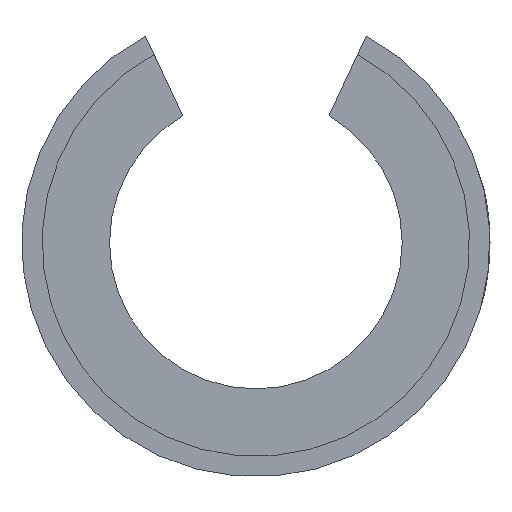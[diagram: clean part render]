
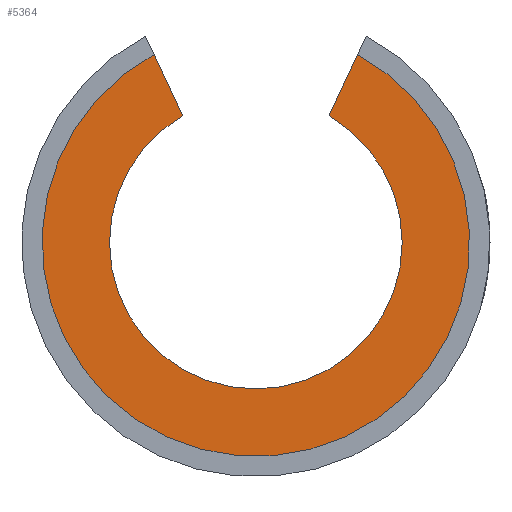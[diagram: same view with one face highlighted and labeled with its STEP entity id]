
A CAD part, left-side view. The second image highlights one B-rep face of the part: STEP entity #5364.
In plain terms, the highlighted planar face has unit normal (-1, 0, 0).
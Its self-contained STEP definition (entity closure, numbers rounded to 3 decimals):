
#125=PLANE('',#5783);
#355=CIRCLE('',#5758,25.);
#368=CIRCLE('',#5784,36.514);
#556=LINE('',#8547,#1011);
#557=LINE('',#8549,#1012);
#1011=VECTOR('',#6379,1000.);
#1012=VECTOR('',#6380,1000.);
#1646=ORIENTED_EDGE('',*,*,#3257,.T.);
#1647=ORIENTED_EDGE('',*,*,#3218,.T.);
#1648=ORIENTED_EDGE('',*,*,#3258,.T.);
#1649=ORIENTED_EDGE('',*,*,#3259,.F.);
#3218=EDGE_CURVE('',#4030,#4031,#355,.F.);
#3257=EDGE_CURVE('',#4056,#4030,#556,.T.);
#3258=EDGE_CURVE('',#4031,#4057,#557,.T.);
#3259=EDGE_CURVE('',#4056,#4057,#368,.T.);
#4030=VERTEX_POINT('',#8470);
#4031=VERTEX_POINT('',#8471);
#4056=VERTEX_POINT('',#8548);
#4057=VERTEX_POINT('',#8550);
#4587=EDGE_LOOP('',(#1646,#1647,#1648,#1649));
#4966=FACE_BOUND('',#4587,.T.);
#5364=ADVANCED_FACE('',(#4966),#125,.T.);
#5758=AXIS2_PLACEMENT_3D('',#8469,#6301,#6302);
#5783=AXIS2_PLACEMENT_3D('',#8546,#6377,#6378);
#5784=AXIS2_PLACEMENT_3D('',#8551,#6381,#6382);
#6301=DIRECTION('',(-1.,0.,0.));
#6302=DIRECTION('',(0.,0.,1.));
#6377=DIRECTION('',(-1.,0.,0.));
#6378=DIRECTION('',(0.,0.,-1.));
#6379=DIRECTION('',(0.,0.423,-0.906));
#6380=DIRECTION('',(0.,0.423,0.906));
#6381=DIRECTION('',(1.,0.,0.));
#6382=DIRECTION('',(0.,0.,-1.));
#8469=CARTESIAN_POINT('',(-47.,0.,0.));
#8470=CARTESIAN_POINT('',(-47.,-12.5,21.651));
#8471=CARTESIAN_POINT('',(-47.,12.5,21.651));
#8546=CARTESIAN_POINT('',(-47.,0.,0.));
#8547=CARTESIAN_POINT('',(-47.,-12.5,21.651));
#8548=CARTESIAN_POINT('',(-47.,-17.379,32.113));
#8549=CARTESIAN_POINT('',(-47.,12.5,21.651));
#8550=CARTESIAN_POINT('',(-47.,17.379,32.113));
#8551=CARTESIAN_POINT('',(-47.,0.,0.));
